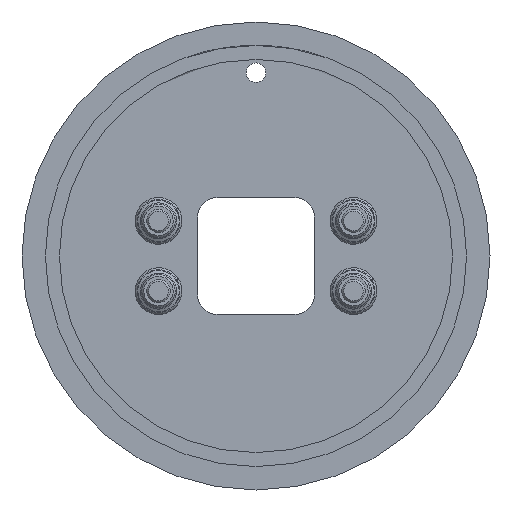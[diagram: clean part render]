
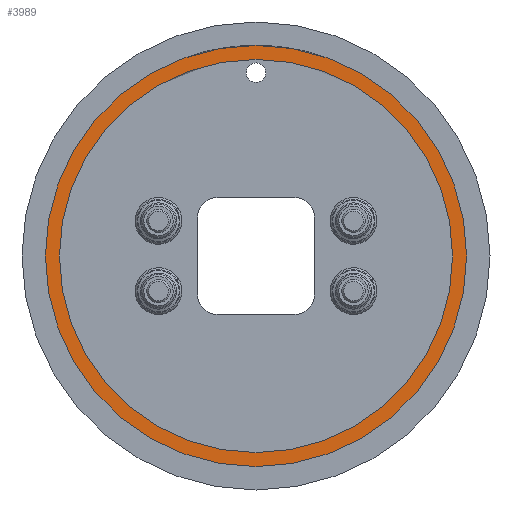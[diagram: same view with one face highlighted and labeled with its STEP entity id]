
A CAD part, front view. The second image highlights one B-rep face of the part: STEP entity #3989.
In plain terms, the highlighted planar face has unit normal (0, -1, 0).
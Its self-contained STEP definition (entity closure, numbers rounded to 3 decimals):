
#23 = DIRECTION ( 'NONE',  ( 1., 0., 0. ) ) ;
#80 = CARTESIAN_POINT ( 'NONE',  ( 0., 0., 0. ) ) ;
#143 = ORIENTED_EDGE ( 'NONE', *, *, #2133, .T. ) ;
#464 = EDGE_CURVE ( 'NONE', #2131, #3108, #1912, .T. ) ;
#500 = ORIENTED_EDGE ( 'NONE', *, *, #2581, .F. ) ;
#526 = EDGE_LOOP ( 'NONE', ( #1922, #500 ) ) ;
#669 = DIRECTION ( 'NONE',  ( 0., 1., 0. ) ) ;
#699 = DIRECTION ( 'NONE',  ( 0., 0., 1. ) ) ;
#752 = CARTESIAN_POINT ( 'NONE',  ( 0., 0., -50.4 ) ) ;
#874 = AXIS2_PLACEMENT_3D ( 'NONE', #972, #3631, #2935 ) ;
#901 = DIRECTION ( 'NONE',  ( 0., 1., 0. ) ) ;
#921 = PLANE ( 'NONE',  #3707 ) ;
#967 = DIRECTION ( 'NONE',  ( 0., 1., 0. ) ) ;
#972 = CARTESIAN_POINT ( 'NONE',  ( 0., 0., 0. ) ) ;
#1077 = AXIS2_PLACEMENT_3D ( 'NONE', #4213, #967, #3210 ) ;
#1123 = EDGE_CURVE ( 'NONE', #4028, #1788, #3309, .T. ) ;
#1403 = DIRECTION ( 'NONE',  ( 0., 1., 0. ) ) ;
#1788 = VERTEX_POINT ( 'NONE', #2877 ) ;
#1912 = CIRCLE ( 'NONE', #874, 50.4 ) ;
#1922 = ORIENTED_EDGE ( 'NONE', *, *, #1123, .F. ) ;
#2131 = VERTEX_POINT ( 'NONE', #752 ) ;
#2133 = EDGE_CURVE ( 'NONE', #3108, #2131, #3018, .T. ) ;
#2206 = FACE_BOUND ( 'NONE', #2988, .T. ) ;
#2291 = CARTESIAN_POINT ( 'NONE',  ( 0., 0., 0. ) ) ;
#2384 = AXIS2_PLACEMENT_3D ( 'NONE', #80, #1403, #699 ) ;
#2581 = EDGE_CURVE ( 'NONE', #1788, #4028, #3368, .T. ) ;
#2603 = DIRECTION ( 'NONE',  ( 0., 0., 1. ) ) ;
#2877 = CARTESIAN_POINT ( 'NONE',  ( 0., 0., 54. ) ) ;
#2889 = FACE_OUTER_BOUND ( 'NONE', #526, .T. ) ;
#2935 = DIRECTION ( 'NONE',  ( 1., 0., 0. ) ) ;
#2988 = EDGE_LOOP ( 'NONE', ( #3492, #143 ) ) ;
#2999 = CARTESIAN_POINT ( 'NONE',  ( 0., 0., 0. ) ) ;
#3018 = CIRCLE ( 'NONE', #3990, 50.4 ) ;
#3108 = VERTEX_POINT ( 'NONE', #4088 ) ;
#3210 = DIRECTION ( 'NONE',  ( 0., 0., 1. ) ) ;
#3309 = CIRCLE ( 'NONE', #1077, 54. ) ;
#3368 = CIRCLE ( 'NONE', #2384, 54. ) ;
#3492 = ORIENTED_EDGE ( 'NONE', *, *, #464, .T. ) ;
#3631 = DIRECTION ( 'NONE',  ( 0., 1., 0. ) ) ;
#3707 = AXIS2_PLACEMENT_3D ( 'NONE', #2291, #901, #2603 ) ;
#3889 = CARTESIAN_POINT ( 'NONE',  ( 0., 0., -54. ) ) ;
#3989 = ADVANCED_FACE ( 'NONE', ( #2889, #2206 ), #921, .F. ) ;
#3990 = AXIS2_PLACEMENT_3D ( 'NONE', #2999, #669, #23 ) ;
#4028 = VERTEX_POINT ( 'NONE', #3889 ) ;
#4088 = CARTESIAN_POINT ( 'NONE',  ( 0., 0., 50.4 ) ) ;
#4213 = CARTESIAN_POINT ( 'NONE',  ( 0., 0., 0. ) ) ;
